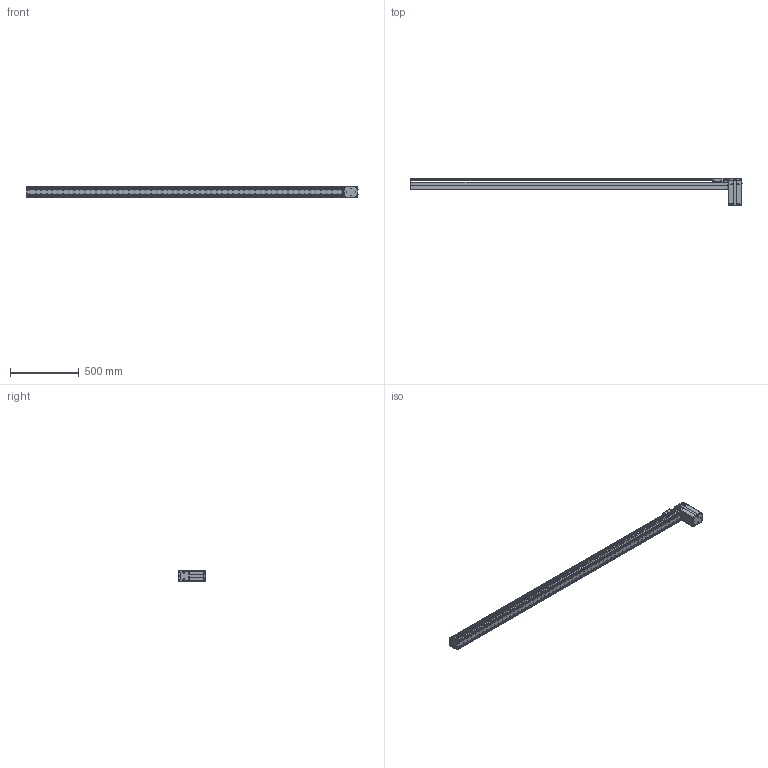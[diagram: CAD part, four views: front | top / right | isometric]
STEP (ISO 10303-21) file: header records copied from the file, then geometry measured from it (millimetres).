
FILE_DESCRIPTION((''),'2;1');
FILE_NAME('BE10_-BU-S_N-M5_IGS_PRT','2017-06-18T',(' '),(''),'PRO/ENGINEER BY PARAMETRIC TECHNOLOGY CORPORATION, 2015030','PRO/ENGINEER BY PARAMETRIC TECHNOLOGY CORPORATION, 2015030','');
FILE_SCHEMA(('CONFIG_CONTROL_DESIGN'));
Products named in the file (1): BE10_-BU-S_N-M5_IGS_PRT
Bounding box: 2420.8 x 202.72 x 78 mm (x, y, z)
Volume: 3069425.9 mm3; surface area: 2175900.5 mm2
Topology: 5 solids, 193 shells, 2384 faces, 6549 edges, 4375 vertices
Faces by surface type: cylinder 1147, plane 1078, cone 103, sphere 28, torus 25, bspline 3
Entity records: 78561 total; most frequent: CARTESIAN_POINT 16323, DIRECTION 13267, ORIENTED_EDGE 12274, EDGE_CURVE 6495, AXIS2_PLACEMENT_3D 4885, VERTEX_POINT 4375, VECTOR 3497, LINE 3497
